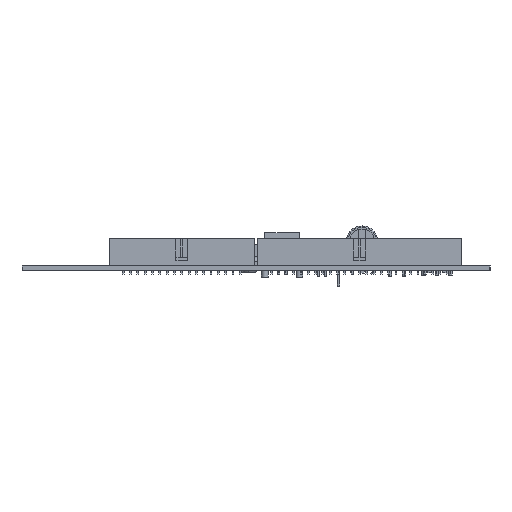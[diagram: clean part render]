
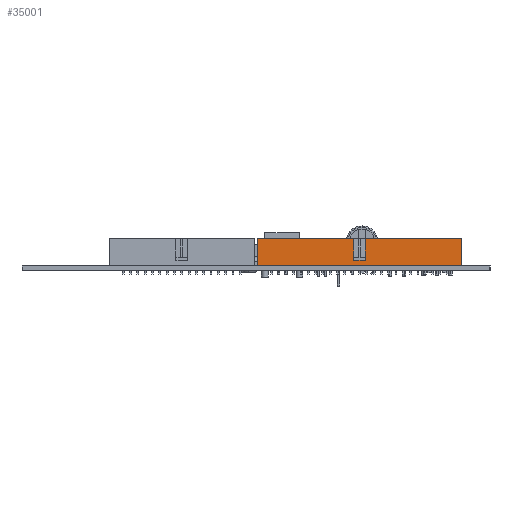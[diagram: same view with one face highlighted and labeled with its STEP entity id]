
A CAD part, left-side view. The second image highlights one B-rep face of the part: STEP entity #35001.
In plain terms, the highlighted planar face has unit normal (-1, 0, 0).
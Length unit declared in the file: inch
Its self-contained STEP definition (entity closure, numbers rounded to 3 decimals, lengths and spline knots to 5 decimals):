
#3795=DIRECTION('',(0.,-1.,0.));
#3796=VECTOR('',#3795,2.79);
#3797=CARTESIAN_POINT('',(-2.795,-0.02,0.062));
#3798=LINE('',#3797,#3796);
#6079=DIRECTION('',(0.,0.,1.));
#6080=VECTOR('',#6079,0.37);
#6081=CARTESIAN_POINT('',(-2.795,-2.81,0.062));
#6082=LINE('',#6081,#6080);
#6083=DIRECTION('',(0.,0.,1.));
#6084=VECTOR('',#6083,0.37);
#6085=CARTESIAN_POINT('',(-2.795,-0.02,0.062));
#6086=LINE('',#6085,#6084);
#6087=DIRECTION('',(0.,0.,-1.));
#6088=VECTOR('',#6087,0.29);
#6089=CARTESIAN_POINT('',(-2.795,-1.335,0.432));
#6090=LINE('',#6089,#6088);
#6091=DIRECTION('',(0.,-1.,0.));
#6092=VECTOR('',#6091,0.16);
#6093=CARTESIAN_POINT('',(-2.795,-1.335,0.142));
#6094=LINE('',#6093,#6092);
#6095=DIRECTION('',(0.,0.,-1.));
#6096=VECTOR('',#6095,0.29);
#6097=CARTESIAN_POINT('',(-2.795,-1.495,0.432));
#6098=LINE('',#6097,#6096);
#6111=DIRECTION('',(0.,-1.,0.));
#6112=VECTOR('',#6111,1.315);
#6113=CARTESIAN_POINT('',(-2.795,-0.02,0.432));
#6114=LINE('',#6113,#6112);
#6127=DIRECTION('',(0.,-1.,0.));
#6128=VECTOR('',#6127,1.315);
#6129=CARTESIAN_POINT('',(-2.795,-1.495,0.432));
#6130=LINE('',#6129,#6128);
#22905=CARTESIAN_POINT('',(-2.795,-2.81,0.432));
#22907=VERTEX_POINT('',#22905);
#22911=CARTESIAN_POINT('',(-2.795,-0.02,0.432));
#22912=VERTEX_POINT('',#22911);
#22933=CARTESIAN_POINT('',(-2.795,-1.335,0.432));
#22935=VERTEX_POINT('',#22933);
#22937=CARTESIAN_POINT('',(-2.795,-1.495,0.432));
#22939=VERTEX_POINT('',#22937);
#22941=CARTESIAN_POINT('',(-2.795,-1.335,0.142));
#22942=VERTEX_POINT('',#22941);
#22943=CARTESIAN_POINT('',(-2.795,-1.495,0.142));
#22944=VERTEX_POINT('',#22943);
#24569=CARTESIAN_POINT('',(-2.795,-2.81,0.062));
#24571=VERTEX_POINT('',#24569);
#24575=CARTESIAN_POINT('',(-2.795,-0.02,0.062));
#24576=VERTEX_POINT('',#24575);
#34980=CARTESIAN_POINT('',(-2.795,-0.02,0.062));
#34981=DIRECTION('',(-1.,0.,0.));
#34982=DIRECTION('',(0.,-1.,0.));
#34983=AXIS2_PLACEMENT_3D('',#34980,#34981,#34982);
#34984=PLANE('',#34983);
#34985=ORIENTED_EDGE('',*,*,#31514,.F.);
#34987=ORIENTED_EDGE('',*,*,#34986,.T.);
#34989=ORIENTED_EDGE('',*,*,#34988,.T.);
#34991=ORIENTED_EDGE('',*,*,#34990,.T.);
#34993=ORIENTED_EDGE('',*,*,#34992,.T.);
#34995=ORIENTED_EDGE('',*,*,#34994,.F.);
#34997=ORIENTED_EDGE('',*,*,#34996,.T.);
#34998=ORIENTED_EDGE('',*,*,#34971,.F.);
#34999=EDGE_LOOP('',(#34985,#34987,#34989,#34991,#34993,#34995,#34997,#34998));
#35000=FACE_OUTER_BOUND('',#34999,.F.);
#35001=ADVANCED_FACE('',(#35000),#34984,.T.);
#31514=EDGE_CURVE('',#24576,#24571,#3798,.T.);
#34971=EDGE_CURVE('',#24571,#22907,#6082,.T.);
#34986=EDGE_CURVE('',#24576,#22912,#6086,.T.);
#34988=EDGE_CURVE('',#22912,#22935,#6114,.T.);
#34990=EDGE_CURVE('',#22935,#22942,#6090,.T.);
#34992=EDGE_CURVE('',#22942,#22944,#6094,.T.);
#34994=EDGE_CURVE('',#22939,#22944,#6098,.T.);
#34996=EDGE_CURVE('',#22939,#22907,#6130,.T.);
